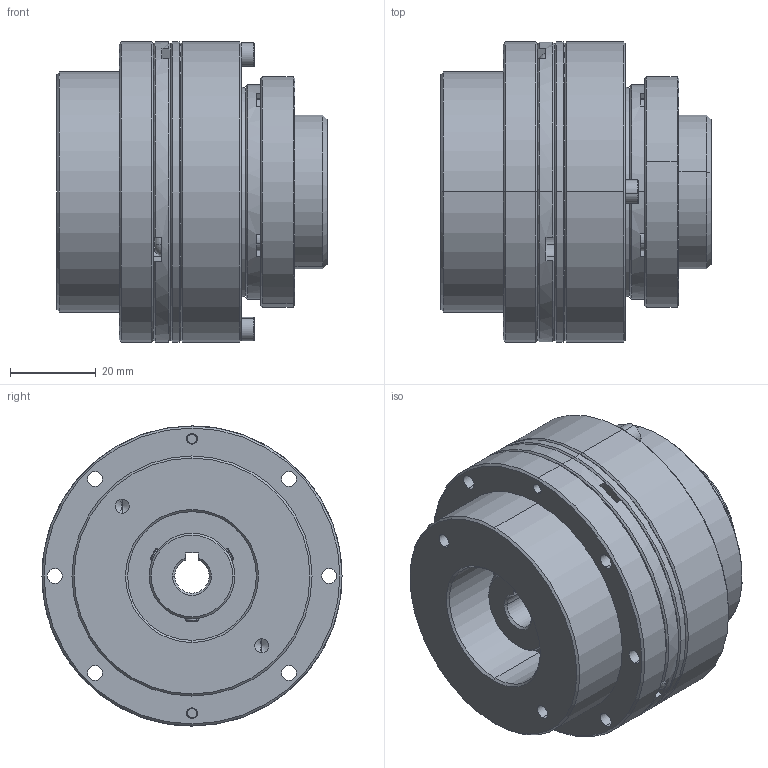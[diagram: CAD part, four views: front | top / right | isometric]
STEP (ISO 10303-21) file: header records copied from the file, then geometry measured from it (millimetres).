
FILE_DESCRIPTION (( 'STEP AP214' ), '1' );
FILE_NAME ('LHSG-14-XXX-RDP-8-25-30-46-M4.step', '2022-08-03T03:58:13', ( 'Sysceo.com' ), ( '' ), 'SwSTEP 2.0', 'SolidWorks 2020', '' );
FILE_SCHEMA (( 'AUTOMOTIVE_DESIGN' ));
Length unit declared in the file: millimetre
Products named in the file (1): LHSG-14-XXX-RDP-8-25-30-46-M4
Bounding box: 63 x 70 x 70 mm (x, y, z)
Volume: 137305 mm3; surface area: 90616.9 mm2
Topology: 74 solids, 74 shells, 1149 faces, 2737 edges, 1596 vertices
Faces by surface type: cylinder 382, plane 322, cone 189, sphere 172, torus 84
Entity records: 45010 total; most frequent: DIRECTION 6102, CARTESIAN_POINT 5413, ORIENTED_EDGE 4854, AXIS2_PLACEMENT_3D 2557, EDGE_CURVE 2427, VERTEX_POINT 1512, CIRCLE 1407, EDGE_LOOP 1403
